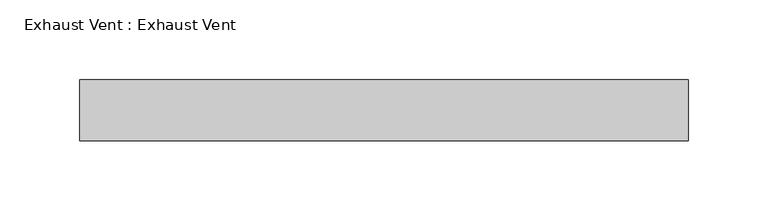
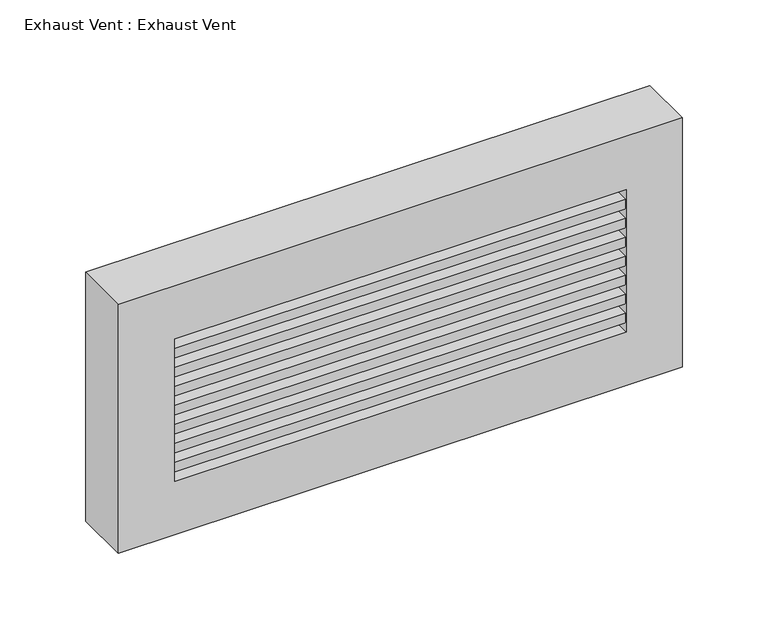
"""IFC4 building model written with IfcOpenShell, lengths in millimetres: proxy geometry, Exhaust Vent : Exhaust Vent."""

import ifcopenshell
import ifcopenshell.guid

model = None  # the IFC model being written
_history = None  # IfcOwnerHistory: only IFC2X3 demands one
_inside = {}  # id of a spatial element -> (the spatial element, [elements in it])
_under = {}  # id of a project, library or spatial element -> (it, [spatial elements below it])
_declared = {}  # id of a project -> (the project, [libraries it declares])
_typed = {}  # id of a type object -> (the type object, [elements of that type])
_made_of = {}  # id of a material, layer set ... -> (it, [elements and type objects made of it])


def new_model(schema):
    """Start an empty IFC model of exactly this schema.

    Asked for "IFC4X3", IfcOpenShell would pick the latest addendum, in which some entities
    have other attributes; the version numbers below select the first issue.
    IFC2X3 requires an IfcOwnerHistory on every rooted entity: one is made here for all.
    """
    global model, _history
    if schema == "IFC4X3":
        model = ifcopenshell.file(schema_version=(4, 3, 0, 0))
    else:
        model = ifcopenshell.file(schema=schema)
    _inside.clear()
    _under.clear()
    _declared.clear()
    _typed.clear()
    _made_of.clear()
    _history = None
    if model.schema == "IFC2X3":
        org = make("IfcOrganization", Name="unknown")
        user = make(
            "IfcPersonAndOrganization",
            ThePerson=make("IfcPerson", FamilyName="unknown"),
            TheOrganization=org,
        )
        app = make(
            "IfcApplication",
            ApplicationDeveloper=org,
            Version="unknown",
            ApplicationFullName="unknown",
            ApplicationIdentifier="unknown",
        )
        _history = make(
            "IfcOwnerHistory",
            OwningUser=user,
            OwningApplication=app,
            ChangeAction="ADDED",
            CreationDate=0,
        )
    return model


def make(cls, **values):
    """One entity of the class cls with the attributes given. An attribute that is None is left unset."""
    return model.create_entity(
        cls, **{name: value for name, value in values.items() if value is not None}
    )


def rooted(cls, **values):
    """An entity with a GlobalId (a new one), such as an element, a storey or a relation."""
    return make(cls, GlobalId=ifcopenshell.guid.new(), OwnerHistory=_history, **values)


def si_unit(unit_type, name, prefix=None):
    """IfcSIUnit, for example si_unit("LENGTHUNIT", "METRE", prefix="MILLI")."""
    return make("IfcSIUnit", UnitType=unit_type, Prefix=prefix, Name=name)


def assignment(units):
    """IfcUnitAssignment: the units of a project."""
    return None if units is None else make("IfcUnitAssignment", Units=units)


def point(xyz):
    """IfcCartesianPoint."""
    return None if xyz is None else make("IfcCartesianPoint", Coordinates=xyz)


def direction(xyz):
    """IfcDirection."""
    return None if xyz is None else make("IfcDirection", DirectionRatios=xyz)


def frame(location, z_axis=None, x_axis=None):
    """IfcAxis2Placement3D, a coordinate frame: its origin and axes. An axis left out is left unset."""
    return make(
        "IfcAxis2Placement3D",
        Location=point(location),
        Axis=direction(z_axis),
        RefDirection=direction(x_axis),
    )


def origin():
    """The frame at (0, 0, 0) with its axes left unset."""
    return frame((0.0, 0.0, 0.0))


def place(relative_to, where):
    """IfcLocalPlacement: puts the frame where relative to a parent placement (None: the world)."""
    return make(
        "IfcLocalPlacement", PlacementRelTo=relative_to, RelativePlacement=where
    )


def context(
    kind, dimensions, precision=None, world=None, true_north=None, identifier=None
):
    """IfcGeometricRepresentationContext, for example the 3D "Model" context."""
    return make(
        "IfcGeometricRepresentationContext",
        ContextIdentifier=identifier,
        ContextType=kind,
        CoordinateSpaceDimension=dimensions,
        Precision=precision,
        WorldCoordinateSystem=world,
        TrueNorth=true_north,
    )


def project(units=None, contexts=None):
    """IfcProject with its units and contexts."""
    return rooted(
        "IfcProject",
        Name="project",
        RepresentationContexts=contexts,
        UnitsInContext=assignment(units),
    )


def spatial(cls, under=None, at=None, **own):
    """A site, building, storey or space (cls), placed at a placement, below another one or the project."""
    s = rooted(cls, ObjectPlacement=at, **own)
    if under is not None:
        _under.setdefault(under.id(), (under, []))[1].append(s)
    return s


def polyline(points):
    """IfcPolyline through the points."""
    return make("IfcPolyline", Points=[point(p) for p in points])


def outline(outer, holes=None, kind="AREA"):
    """IfcArbitraryClosedProfileDef: a profile drawn as a closed curve; with holes, ...WithVoids."""
    if holes is None:
        return make("IfcArbitraryClosedProfileDef", ProfileType=kind, OuterCurve=outer)
    return make(
        "IfcArbitraryProfileDefWithVoids",
        ProfileType=kind,
        OuterCurve=outer,
        InnerCurves=holes,
    )


def extrude(swept, where, along, depth):
    """IfcExtrudedAreaSolid: the profile swept, set in the frame where, extruded along a direction by depth."""
    return make(
        "IfcExtrudedAreaSolid",
        SweptArea=swept,
        Position=where,
        ExtrudedDirection=direction(along),
        Depth=depth,
    )


def shape(context_of_items, identifier, shape_type, items):
    """IfcShapeRepresentation: the items that make up one representation, for example the "Body"."""
    return make(
        "IfcShapeRepresentation",
        ContextOfItems=context_of_items,
        RepresentationIdentifier=identifier,
        RepresentationType=shape_type,
        Items=items,
    )


def source(mapping_origin, context_of_items, identifier, shape_type, items):
    """IfcRepresentationMap: a shape defined once, which mapped items show again and again."""
    return make(
        "IfcRepresentationMap",
        MappingOrigin=mapping_origin,
        MappedRepresentation=shape(context_of_items, identifier, shape_type, items),
    )


def transform(
    local_origin,
    x_axis=None,
    y_axis=None,
    z_axis=None,
    scale=None,
    scale2=None,
    scale3=None,
    uniform=True,
):
    """IfcCartesianTransformationOperator3D, or its non-uniform kind. x_axis, y_axis, z_axis: its Axis1, 2, 3."""
    if uniform:
        return make(
            "IfcCartesianTransformationOperator3D",
            Axis1=direction(x_axis),
            Axis2=direction(y_axis),
            LocalOrigin=point(local_origin),
            Scale=scale,
            Axis3=direction(z_axis),
        )
    return make(
        "IfcCartesianTransformationOperator3DnonUniform",
        Axis1=direction(x_axis),
        Axis2=direction(y_axis),
        LocalOrigin=point(local_origin),
        Scale=scale,
        Axis3=direction(z_axis),
        Scale2=scale2,
        Scale3=scale3,
    )


def mapped(mapping_source, mapping_target):
    """IfcMappedItem: shows the shape of a source again, moved by a transform."""
    return make(
        "IfcMappedItem", MappingSource=mapping_source, MappingTarget=mapping_target
    )


def made_of(thing, what):
    """Note that an element or type object is made of a material, layer set ...; save() writes the relation."""
    if what is not None:
        _made_of.setdefault(what.id(), (what, []))[1].append(thing)
    return thing


def element(
    cls,
    number,
    at=None,
    inside=None,
    cuts=None,
    type_object=None,
    material=None,
    context=None,
    identifier="Body",
    shape_type=None,
    held_by="IfcProductDefinitionShape",
    body=None,
    shapes=None,
    **own,
):
    """One element of the class cls, such as IfcWall. Its Tag is "e" and its number.

    at: its placement. inside: the storey or other place that contains it. cuts: it is an
    opening in that element (IfcRelVoidsElement). A single representation is given by context,
    identifier, shape_type and body (its items); several are given by shapes. held_by: the class
    of the entity that holds the representations. save() writes the other relations.
    """
    e = rooted(cls, Tag="e%d" % number, ObjectPlacement=at, **own)
    if body is not None:
        shapes = [shape(context, identifier, shape_type, body)]
    if shapes is not None:
        e.Representation = make(held_by, Representations=shapes)
    if inside is not None:
        _inside.setdefault(inside.id(), (inside, []))[1].append(e)
    if cuts is not None:
        rooted(
            "IfcRelVoidsElement", RelatingBuildingElement=cuts, RelatedOpeningElement=e
        )
    if type_object is not None:
        _typed.setdefault(type_object.id(), (type_object, []))[1].append(e)
    return made_of(e, material)


def aggregate(whole, parts):
    """IfcRelAggregates: a whole, such as a stair, and the parts it consists of."""
    return rooted("IfcRelAggregates", RelatingObject=whole, RelatedObjects=parts)


def save(model, path):
    """Write the relations noted so far, then the file.

    IfcRelAggregates (storeys below a building ...), IfcRelContainedInSpatialStructure (elements
    in a storey), IfcRelDefinesByType, IfcRelAssociatesMaterial and IfcRelDeclares: one each for
    every whole, place, type object, material and project.
    """
    for whole, parts in _under.values():
        aggregate(whole, parts)
    for where, things in _inside.values():
        rooted(
            "IfcRelContainedInSpatialStructure",
            RelatedElements=things,
            RelatingStructure=where,
        )
    for kind, things in _typed.values():
        rooted("IfcRelDefinesByType", RelatedObjects=things, RelatingType=kind)
    for what, things in _made_of.values():
        rooted("IfcRelAssociatesMaterial", RelatedObjects=things, RelatingMaterial=what)
    for by, libraries in _declared.values():
        rooted("IfcRelDeclares", RelatingContext=by, RelatedDefinitions=libraries)
    model.write(path)


def exhaust_vent_exhaust_vent_92b16d7d(model_context):
    return source(origin(), model_context, "Body", "SweptSolid", [
        extrude(outline(polyline([(1968.5, -198.6443955), (1790.7, -198.6443955), (1790.7, 182.3556045), (1968.5, 182.3556045), (1968.5, -198.6443955)]), holes=[polyline([(1930.4, 144.2556045), (1828.8, 144.2556045), (1828.8, -160.5443955), (1930.4, -160.5443955), (1930.4, 144.2556045)])]), frame((0.0, 101.6, 0.0), z_axis=(0.0, 1.0, 0.0), x_axis=(0.0, 0.0, 1.0)), (0.0, 0.0, 1.0), 38.1),
        extrude(outline(polyline([(144.2556045, 101.6), (-160.5443955, 101.6), (-160.5443955, 114.3), (144.2556045, 114.3), (144.2556045, 101.6)])), frame((0.0, 0.0, 1916.8533333), z_axis=(0.0, 0.0, 1.0), x_axis=(1.0, 0.0, 0.0)), (0.0, 0.0, 1.0), 6.7733333),
        extrude(outline(polyline([(144.2556045, 101.6), (-160.5443955, 101.6), (-160.5443955, 114.3), (144.2556045, 114.3), (144.2556045, 101.6)])), frame((0.0, 0.0, 1903.3066667), z_axis=(0.0, 0.0, 1.0), x_axis=(1.0, 0.0, 0.0)), (0.0, 0.0, 1.0), 6.7733333),
        extrude(outline(polyline([(144.2556045, 101.6), (-160.5443955, 101.6), (-160.5443955, 114.3), (144.2556045, 114.3), (144.2556045, 101.6)])), frame((0.0, 0.0, 1889.76), z_axis=(0.0, 0.0, 1.0), x_axis=(1.0, 0.0, 0.0)), (0.0, 0.0, 1.0), 6.7733333),
        extrude(outline(polyline([(144.2556045, 101.6), (-160.5443955, 101.6), (-160.5443955, 114.3), (144.2556045, 114.3), (144.2556045, 101.6)])), frame((0.0, 0.0, 1876.2133333), z_axis=(0.0, 0.0, 1.0), x_axis=(1.0, 0.0, 0.0)), (0.0, 0.0, 1.0), 6.7733333),
        extrude(outline(polyline([(144.2556045, 101.6), (-160.5443955, 101.6), (-160.5443955, 114.3), (144.2556045, 114.3), (144.2556045, 101.6)])), frame((0.0, 0.0, 1862.6666667), z_axis=(0.0, 0.0, 1.0), x_axis=(1.0, 0.0, 0.0)), (0.0, 0.0, 1.0), 6.7733333),
        extrude(outline(polyline([(144.2556045, 101.6), (-160.5443955, 101.6), (-160.5443955, 114.3), (144.2556045, 114.3), (144.2556045, 101.6)])), frame((0.0, 0.0, 1849.12), z_axis=(0.0, 0.0, 1.0), x_axis=(1.0, 0.0, 0.0)), (0.0, 0.0, 1.0), 6.7733333),
        extrude(outline(polyline([(144.2556045, 101.6), (-160.5443955, 101.6), (-160.5443955, 114.3), (144.2556045, 114.3), (144.2556045, 101.6)])), frame((0.0, 0.0, 1835.5733333), z_axis=(0.0, 0.0, 1.0), x_axis=(1.0, 0.0, 0.0)), (0.0, 0.0, 1.0), 6.7733333),
    ])


if __name__ == "__main__":
    model = new_model("IFC4")
    model_context = context("Model", 3, world=origin())
    ifc_project = project(units=[si_unit("LENGTHUNIT", "METRE", prefix="MILLI")], contexts=[model_context])
    site = spatial("IfcSite", under=ifc_project)
    building = spatial("IfcBuilding", under=site)
    placement = place(None, origin())
    exhaust_vent_exhaust_vent_shape = exhaust_vent_exhaust_vent_92b16d7d(model_context)
    element("IfcBuildingElementProxy", 1, Name="Exhaust Vent : Exhaust Vent", ObjectType="Exhaust Vent : Exhaust Vent", at=placement, inside=building, context=model_context, shape_type="MappedRepresentation", body=[
        mapped(exhaust_vent_exhaust_vent_shape, transform((0.0, 0.0, 0.0), x_axis=(1.0, 0.0, 0.0), y_axis=(0.0, 1.0, 0.0), z_axis=(0.0, 0.0, 1.0))),
    ])
    save(model, "model.ifc")
